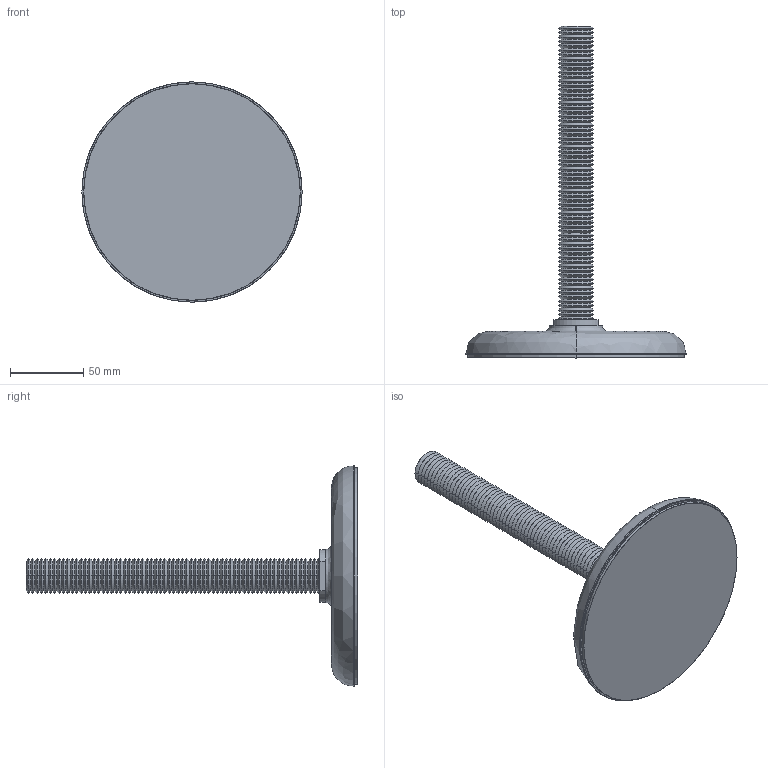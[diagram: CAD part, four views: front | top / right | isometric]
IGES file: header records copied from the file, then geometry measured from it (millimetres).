
Start section: SolidWorks IGES file using analytic representation for surfaces
Global section: file name: C:\Documents and Settings\IANO\Desktop\Temp File\Process pending\EXISTING\34780_v2\34780_v2_20170626_IGES\34780.W0241.igs; native system: SolidWorks 2009; preprocessor: SolidWorks 2009; author: IANO; date: 170626.122624; units: millimetre
Bounding box: 150 x 226 x 150 mm (x, y, z)
Surface area: 143475.1 mm2 (no closed solid volume)
Topology: 0 solids, 0 shells, 332 faces, 2274 edges, 2274 vertices
Faces by surface type: revolution 304, bspline 28
